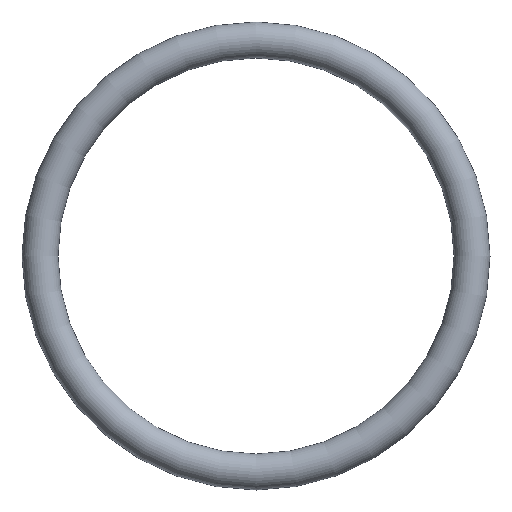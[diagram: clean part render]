
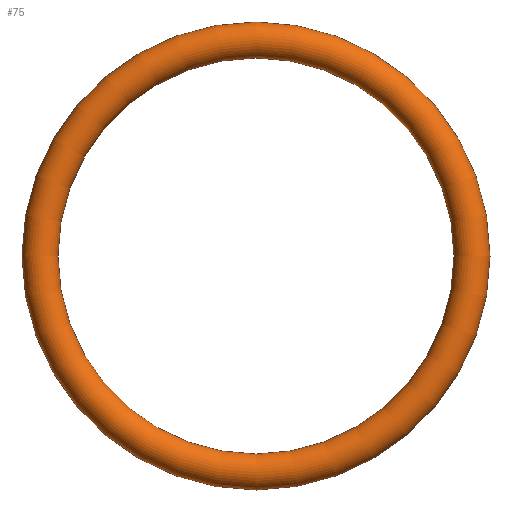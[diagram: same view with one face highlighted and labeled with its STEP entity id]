
A CAD part, front view. The second image highlights one B-rep face of the part: STEP entity #75.
In plain terms, the highlighted toroidal (fillet/blend) face has major radius 30 mm and minor radius 2.5 mm.
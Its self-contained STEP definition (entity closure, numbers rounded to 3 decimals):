
#75 = ADVANCED_FACE( '', ( #77 ), #78, .T. );
#77 = FACE_BOUND( '', #79, .T. );
#78 = TOROIDAL_SURFACE( '', #80, 30., 2.5 );
#79 = VERTEX_LOOP( '', #81 );
#80 = AXIS2_PLACEMENT_3D( '', #82, #83, #84 );
#81 = VERTEX_POINT( '', #85 );
#82 = CARTESIAN_POINT( '', ( 0., 0., 0. ) );
#83 = DIRECTION( '', ( 0., -1., 0. ) );
#84 = DIRECTION( '', ( 0., 0., -1. ) );
#85 = CARTESIAN_POINT( '', ( 0., 0., -32.5 ) );
